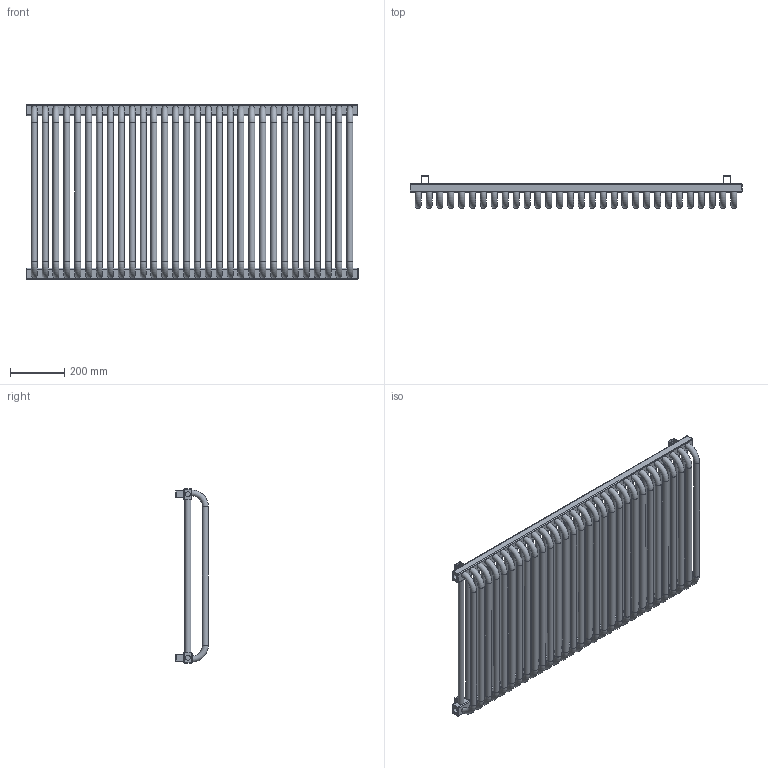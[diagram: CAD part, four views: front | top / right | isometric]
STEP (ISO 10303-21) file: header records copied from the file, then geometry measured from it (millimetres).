
FILE_DESCRIPTION((''),'2;1');
FILE_NAME('Z:\R\G\P\RGPH03 - Grzejnik Dobus\Work\Inventor\Marketing\STEP\DF-64-12-L6.stp','2012-07-25T11:41:55',('PioRo'),(''),'Autodesk Inventor 2012','Autodesk Inventor 2012','');
FILE_SCHEMA(('CONFIG_CONTROL_DESIGN'));
Length unit declared in the file: millimetre
Products named in the file (1): Część1
Bounding box: 1220 x 120 x 640 mm (x, y, z)
Volume: 16883749.4 mm3; surface area: 2846976.3 mm2
Topology: 5 solids, 5 shells, 270 faces, 673 edges, 418 vertices
Faces by surface type: cylinder 115, plane 79, torus 76
Full cylindrical faces by diameter (mm): 0.1 x4, 18.631 x3, 22 x60
Entity records: 11693 total; most frequent: CARTESIAN_POINT 5135, DIRECTION 1274, ORIENTED_EDGE 1092, EDGE_CURVE 546, EDGE_LOOP 528, AXIS2_PLACEMENT_3D 517, VERTEX_POINT 418, FACE_OUTER_BOUND 270
